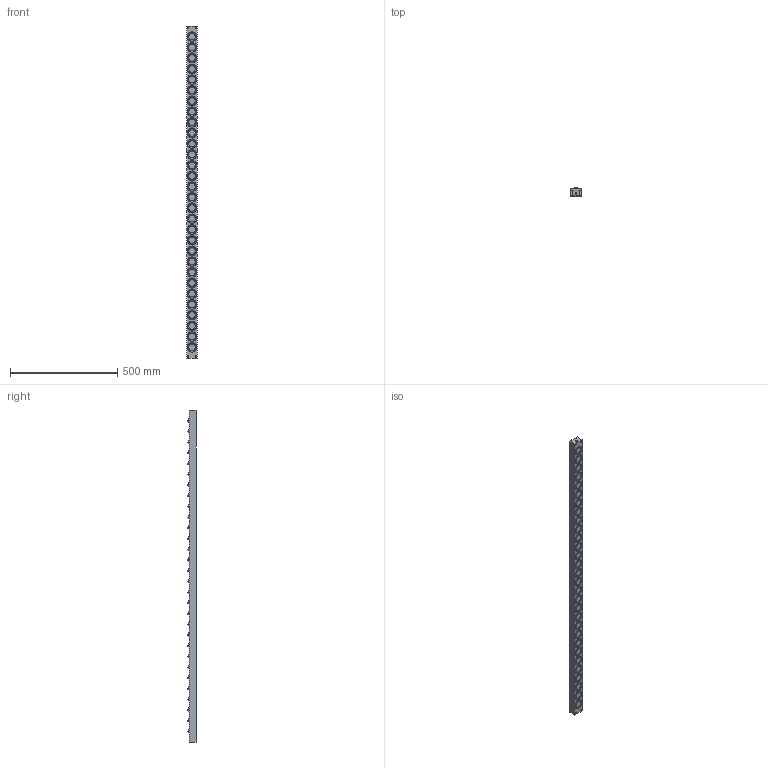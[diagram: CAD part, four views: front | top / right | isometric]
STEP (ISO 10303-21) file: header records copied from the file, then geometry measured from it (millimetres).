
FILE_DESCRIPTION (( 'STEP AP203' ), '1' );
FILE_NAME ('PVL55SL-30.STEP', '2016-02-18T07:33:07', ( '' ), ( '' ), 'SwSTEP 2.0', 'SolidWorks 2013', '' );
FILE_SCHEMA (( 'CONFIG_CONTROL_DESIGN' ));
Length unit declared in the file: millimetre
Products named in the file (1): PVL55SL-30
Bounding box: 49 x 38 x 1550 mm (x, y, z)
Volume: 2399963.6 mm3; surface area: 336043.6 mm2
Topology: 1 solids, 1 shells, 1203 faces, 2986 edges, 1999 vertices
Faces by surface type: cylinder 798, plane 341, sphere 60, cone 4
Entity records: 36943 total; most frequent: DIRECTION 7292, CARTESIAN_POINT 6187, ORIENTED_EDGE 5968, AXIS2_PLACEMENT_3D 3104, EDGE_CURVE 2984, VERTEX_POINT 1999, CIRCLE 1900, EDGE_LOOP 1427
